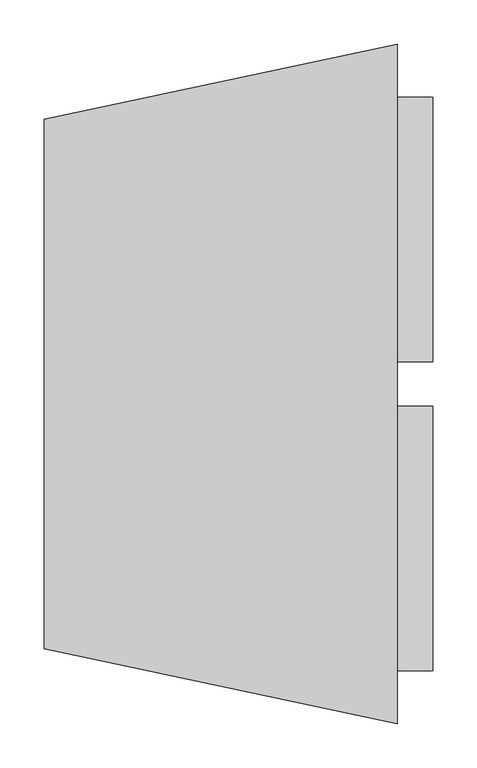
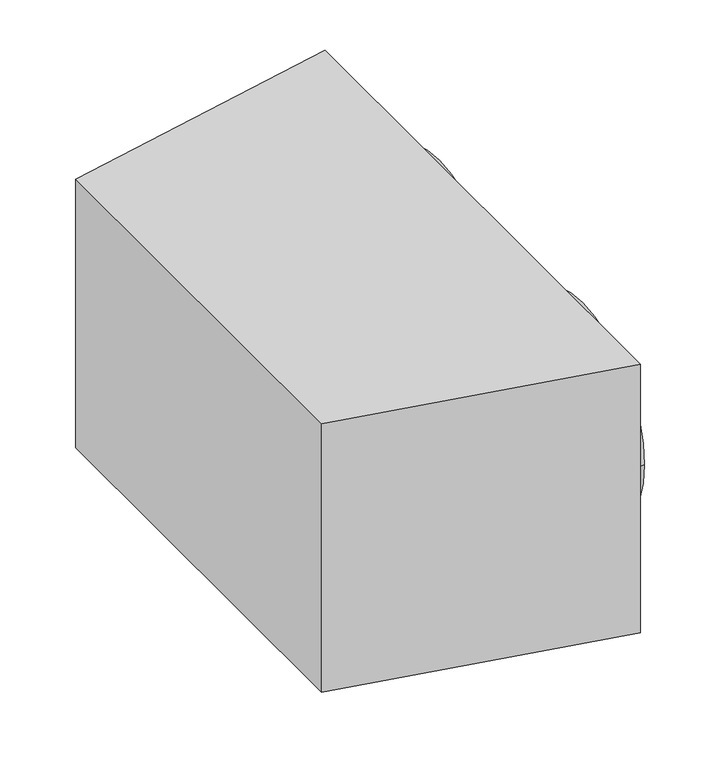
"""IFC4 building model written with IfcOpenShell, lengths in millimetres: duct fitting geometry, BL_Адаптер-НТ_ВерхНижПрямПрисоединение : BL_Адаптер-НТ_ВерхНижПрямПрисоединение."""

from ifc_helpers import new_model, si_unit, point, frame, frame_2d, origin, place, context, project, spatial, polyline, circle_curve, trimmed, segment, composite_curve, outline, extrude, source, transform, mapped, element, save


def duct_fitting_de9f43f0(model_context):
    return source(origin(), model_context, "Body", "SweptSolid", [
        extrude(outline(composite_curve([segment(trimmed(circle_curve(frame_2d((-175.0, 0.0)), 150.0), [point((-25.0, 0.0))], [point((-325.0, 0.0))], False, "CARTESIAN"), True, "CONTINUOUS"), segment(trimmed(circle_curve(frame_2d((-175.0, 0.0)), 150.0), [point((-325.0, 0.0))], [point((-25.0, 0.0))], False, "CARTESIAN"), True, "CONTINUOUS")], self_intersect=False)), frame((400.0, 0.0, 0.0), z_axis=(1.0, 0.0, 0.0), x_axis=(0.0, 1.0, 0.0)), (0.0, 0.0, 1.0), 40.0),
        extrude(outline(composite_curve([segment(trimmed(circle_curve(frame_2d((175.0, 0.0)), 150.0), [point((325.0, 0.0))], [point((25.0, 0.0))], False, "CARTESIAN"), True, "CONTINUOUS"), segment(trimmed(circle_curve(frame_2d((175.0, 0.0)), 150.0), [point((25.0, 0.0))], [point((325.0, 0.0))], False, "CARTESIAN"), True, "CONTINUOUS")], self_intersect=False)), frame((400.0, 0.0, 0.0), z_axis=(1.0, 0.0, 0.0), x_axis=(0.0, 1.0, 0.0)), (0.0, 0.0, 1.0), 40.0),
        extrude(outline(polyline([(0.0, -300.0), (0.0, 300.0), (400.0, 385.0), (400.0, -385.0), (0.0, -300.0)])), frame((0.0, 0.0, -200.0), z_axis=(0.0, 0.0, 1.0), x_axis=(1.0, 0.0, 0.0)), (0.0, 0.0, 1.0), 400.0),
    ])


if __name__ == "__main__":
    model = new_model("IFC4")
    model_context = context("Model", 3, world=origin())
    ifc_project = project(units=[si_unit("LENGTHUNIT", "METRE", prefix="MILLI")], contexts=[model_context])
    site = spatial("IfcSite", under=ifc_project)
    building = spatial("IfcBuilding", under=site)
    placement = place(None, origin())
    duct_fitting_shape = duct_fitting_de9f43f0(model_context)
    element("IfcDuctFitting", 1, ObjectType="BL_Адаптер-НТ_ВерхНижПрямПрисоединение : BL_Адаптер-НТ_ВерхНижПрямПрисоединение", at=placement, inside=building, context=model_context, shape_type="MappedRepresentation", body=[
        mapped(duct_fitting_shape, transform((0.0, 0.0, 0.0), x_axis=(1.0, 0.0, 0.0), y_axis=(0.0, 1.0, 0.0), z_axis=(0.0, 0.0, 1.0))),
    ])
    save(model, "model.ifc")
